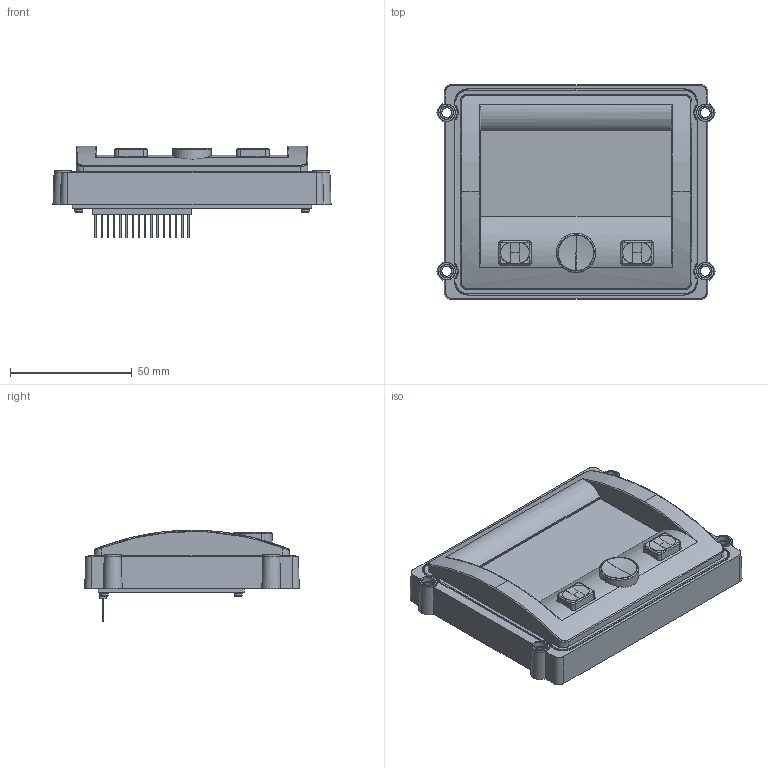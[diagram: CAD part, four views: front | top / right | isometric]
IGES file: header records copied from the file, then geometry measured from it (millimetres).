
Start section: SolidWorks IGES file using analytic representation for surfaces
Global section: file name: C:\Documents and Settings\tracys.STORMINTERFACE\Desktop\website models\5K_DISPLAY_ASSY~1.IGS; native system: SolidWorks 2006 by SolidWorks Corporation; preprocessor: SolidWorks 2006 by SolidWorks Corporation; author: tracys; date: 051028.115240; units: millimetre
Bounding box: 114 x 88 x 37.6 mm (x, y, z)
Surface area: 45081.3 mm2 (no closed solid volume)
Topology: 0 solids, 0 shells, 536 faces, 5750 edges, 5743 vertices
Faces by surface type: bspline 377, revolution 159
